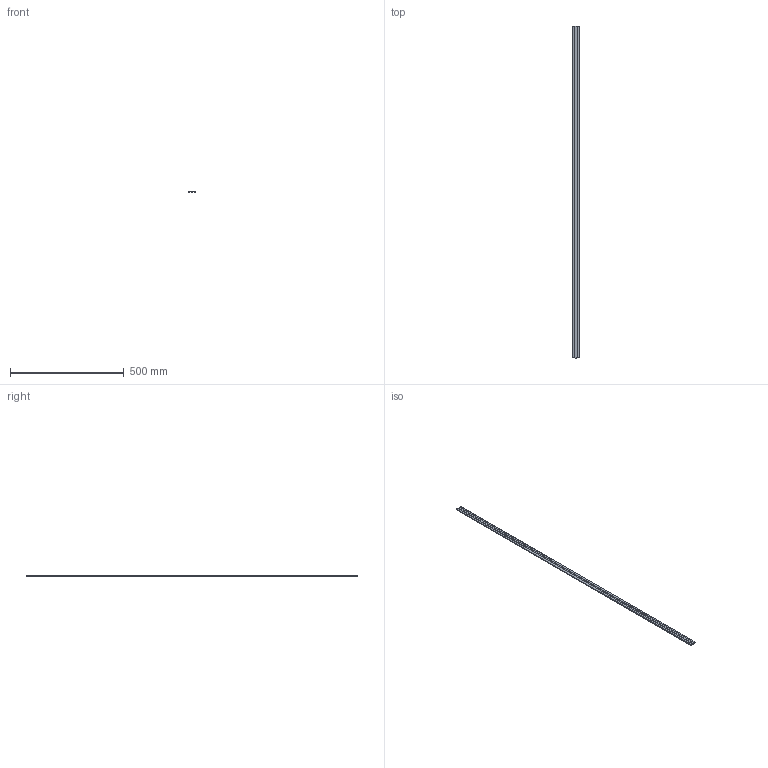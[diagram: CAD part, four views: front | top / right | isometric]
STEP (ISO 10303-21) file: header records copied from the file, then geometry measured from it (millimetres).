
FILE_DESCRIPTION(('CAx-IF Rec.Pracs.---Model Styling and Organization---1.2---2011-12-15','CAx-IF Rec.Pracs.---Geometric and Assembly Validation Properties---4.1---2014-06-16','CAx-IF Rec.Pracs.---PMI Polyline Presentation---2.0---2013-05-24'),'2;1');
FILE_NAME('01VYQ7RY03.stp','2020-01-09T13:03:36+01:00',(''),(''),'STEP Interface 4.3 by CT CoreTechnologie','3D_Evolution4.3 by CT CoreTechnologie','');
FILE_SCHEMA(('AP203_CONFIGURATION_CONTROLLED_3D_DESIGN_OF_MECHANICAL_PARTS_AND_ASSEMBLIES_MIM_LF'));
Length unit declared in the file: millimetre
Products named in the file (1): 01VYQ7RY03
Bounding box: 30.94 x 1457.6 x 5.99 mm (x, y, z)
Volume: 87925.6 mm3; surface area: 119348.6 mm2
Topology: 1 solids, 1 shells, 31 faces, 87 edges, 58 vertices
Faces by surface type: plane 19, cylinder 12
Entity records: 2101 total; most frequent: CARTESIAN_POINT 177, DIRECTION 175, ORIENTED_EDGE 174, PROPERTY_DEFINITION 140, EDGE_CURVE 87, SHAPE_REPRESENTATION 71, SHAPE_DEFINITION_REPRESENTATION 71, INTEGER_REPRESENTATION_ITEM 70
